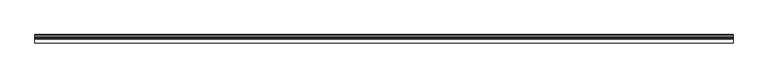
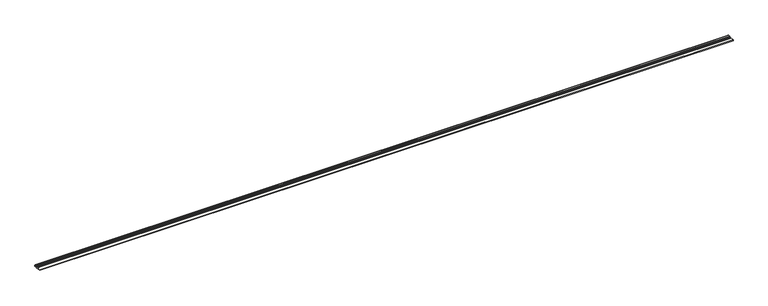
"""IFC4 building model written with IfcOpenShell, lengths in millimetres: slab geometry, ROSA GRES_G49 : Pieza G49_Aqua_Plomo_Anti-Slip."""

from ifc_helpers import new_model, si_unit, point, frame, frame_2d, origin, place, context, project, spatial, polyline, circle_curve, trimmed, segment, composite_curve, outline, extrude, source, transform, mapped, element, save


def slab_547aef0b(model_context):
    return source(origin(), model_context, "Body", "SweptSolid", [
        extrude(outline(composite_curve([segment(polyline([(-0.4959854, 174.3946403), (-15.4742511, 175.6138015)]), True, "CONTINUOUS"), segment(trimmed(circle_curve(frame_2d((-27.0041663, 174.9936892)), 11.5465789), [point((-15.4742511, 175.6138015))], [point((-38.2820268, 177.4702483))], True, "CARTESIAN"), True, "CONTINUOUS"), segment(polyline([(-38.2820268, 177.4702483), (-119.1037338, 184.0487594), (-117.9849268, 197.7941027), (-69.9836117, 193.8870189), (-69.5852402, 193.1051707)]), True, "CONTINUOUS"), segment(trimmed(circle_curve(frame_2d((-63.9188624, 195.2410459)), 6.0555595), [point((-69.5852402, 193.1051707))], [point((-64.4101321, 189.205447))], True, "CARTESIAN"), True, "CONTINUOUS"), segment(polyline([(-64.4101321, 189.205447), (-44.9243788, 187.6193973)]), True, "CONTINUOUS"), segment(trimmed(circle_curve(frame_2d((-44.6810926, 190.6083422)), 2.9988298), [point((-44.9243788, 187.6193973))], [point((-42.1786827, 188.9557911))], True, "CARTESIAN"), True, "CONTINUOUS"), segment(polyline([(-42.1786827, 188.9557911), (-41.0138307, 190.7196924), (-38.3959439, 195.0159662), (-34.9297931, 201.7687131), (-8.4761969, 199.6155199)]), True, "CONTINUOUS"), segment(trimmed(circle_curve(frame_2d((-9.287465, 189.648482)), 10.0), [point((-8.4761969, 199.6155199))], [point((0.6795727, 188.8372115))], False, "CARTESIAN"), True, "CONTINUOUS"), segment(polyline([(0.6795727, 188.8372115), (-0.4959854, 174.3946403)]), True, "CONTINUOUS")], self_intersect=False)), frame((0.0, 0.0, 0.0), z_axis=(1.0, 0.0, 0.0), x_axis=(0.0, 1.0, 0.0)), (0.0, 0.0, 1.0), 10002.75),
    ])


if __name__ == "__main__":
    model = new_model("IFC4")
    model_context = context("Model", 3, world=origin())
    ifc_project = project(units=[si_unit("LENGTHUNIT", "METRE", prefix="MILLI")], contexts=[model_context])
    site = spatial("IfcSite", under=ifc_project)
    building = spatial("IfcBuilding", under=site)
    placement = place(None, origin())
    slab_shape = slab_547aef0b(model_context)
    element("IfcSlab", 1, ObjectType="ROSA GRES_G49 : Pieza G49_Aqua_Plomo_Anti-Slip", at=placement, inside=building, context=model_context, shape_type="MappedRepresentation", body=[
        mapped(slab_shape, transform((0.0, 0.0, 0.0), x_axis=(1.0, 0.0, 0.0), y_axis=(0.0, 1.0, 0.0), z_axis=(0.0, 0.0, 1.0))),
    ])
    save(model, "model.ifc")
